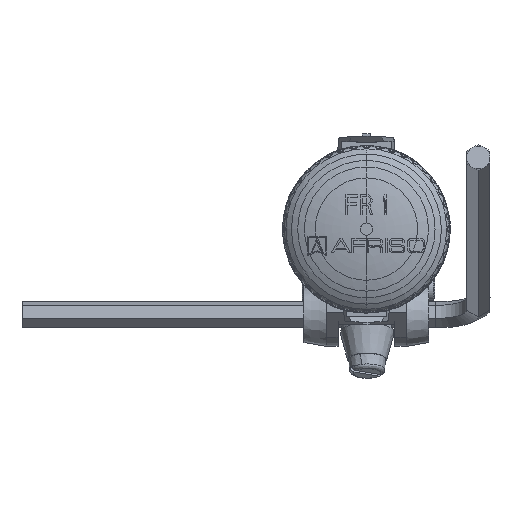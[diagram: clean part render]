
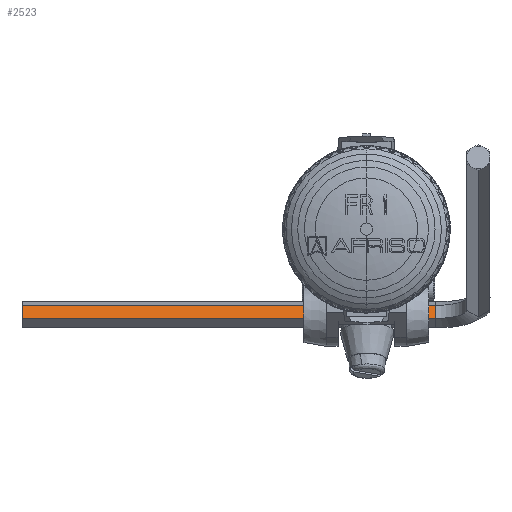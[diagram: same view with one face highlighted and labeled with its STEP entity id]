
A CAD part, top view. The second image highlights one B-rep face of the part: STEP entity #2523.
In plain terms, the highlighted planar face has unit normal (0, 0.259, 0.966) as drawn and (1, 0, 0) by its records, which use the part's own axes.
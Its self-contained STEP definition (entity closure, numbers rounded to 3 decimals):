
#1786 = ORIENTED_EDGE ( 'NONE', *, *, #47514, .F. ) ;
#2523 = ADVANCED_FACE ( 'NONE', ( #44104 ), #72294, .T. ) ;
#3287 = DIRECTION ( 'NONE',  ( 0., 0., -1. ) ) ;
#4128 = EDGE_CURVE ( 'NONE', #61317, #32374, #40833, .T. ) ;
#4763 = DIRECTION ( 'NONE',  ( 0., 0., -1. ) ) ;
#11692 = LINE ( 'NONE', #62477, #58453 ) ;
#13735 = DIRECTION ( 'NONE',  ( 1., 0., 0. ) ) ;
#15725 = VERTEX_POINT ( 'NONE', #49230 ) ;
#15906 = CARTESIAN_POINT ( 'NONE',  ( 25., -148., -49. ) ) ;
#22977 = CARTESIAN_POINT ( 'NONE',  ( 25., -47.268, 57. ) ) ;
#23704 = ORIENTED_EDGE ( 'NONE', *, *, #63895, .T. ) ;
#25017 = DIRECTION ( 'NONE',  ( 0., 0., -1. ) ) ;
#32374 = VERTEX_POINT ( 'NONE', #38766 ) ;
#36670 = EDGE_LOOP ( 'NONE', ( #1786, #52466, #23704, #43535 ) ) ;
#37060 = VECTOR ( 'NONE', #3287, 1000. ) ;
#38766 = CARTESIAN_POINT ( 'NONE',  ( 25., -47.268, -49. ) ) ;
#40833 = LINE ( 'NONE', #15906, #59747 ) ;
#43535 = ORIENTED_EDGE ( 'NONE', *, *, #4128, .T. ) ;
#44104 = FACE_OUTER_BOUND ( 'NONE', #36670, .T. ) ;
#46280 = AXIS2_PLACEMENT_3D ( 'NONE', #63270, #13735, #25017 ) ;
#47514 = EDGE_CURVE ( 'NONE', #58325, #32374, #58319, .T. ) ;
#49230 = CARTESIAN_POINT ( 'NONE',  ( 25., -50.732, 57. ) ) ;
#52466 = ORIENTED_EDGE ( 'NONE', *, *, #72703, .F. ) ;
#58319 = LINE ( 'NONE', #22977, #37060 ) ;
#58325 = VERTEX_POINT ( 'NONE', #69213 ) ;
#58453 = VECTOR ( 'NONE', #4763, 1000. ) ;
#59747 = VECTOR ( 'NONE', #73738, 1000. ) ;
#61317 = VERTEX_POINT ( 'NONE', #68043 ) ;
#62477 = CARTESIAN_POINT ( 'NONE',  ( 25., -50.732, 57. ) ) ;
#63270 = CARTESIAN_POINT ( 'NONE',  ( 25., -47.268, 57. ) ) ;
#63895 = EDGE_CURVE ( 'NONE', #15725, #61317, #11692, .T. ) ;
#64814 = VECTOR ( 'NONE', #80510, 1000. ) ;
#68043 = CARTESIAN_POINT ( 'NONE',  ( 25., -50.732, -49. ) ) ;
#69213 = CARTESIAN_POINT ( 'NONE',  ( 25., -47.268, 57. ) ) ;
#72294 = PLANE ( 'NONE',  #46280 ) ;
#72703 = EDGE_CURVE ( 'NONE', #15725, #58325, #79288, .T. ) ;
#73457 = CARTESIAN_POINT ( 'NONE',  ( 25., -49., 57. ) ) ;
#73738 = DIRECTION ( 'NONE',  ( 0., 1., 0. ) ) ;
#79288 = LINE ( 'NONE', #73457, #64814 ) ;
#80510 = DIRECTION ( 'NONE',  ( 0., 1., 0. ) ) ;
